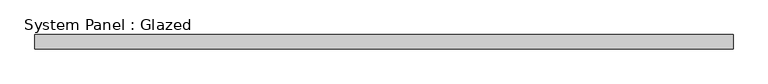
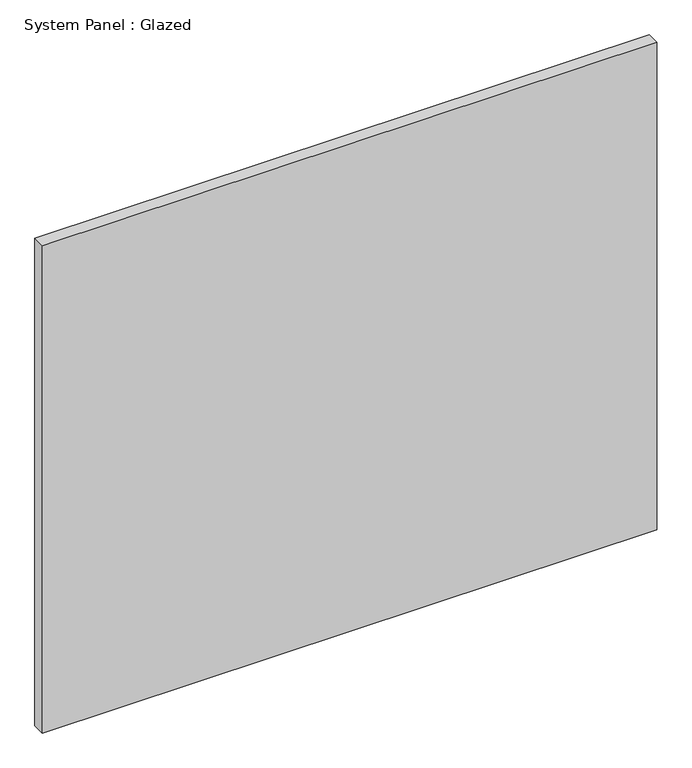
"""IFC4 building model written with IfcOpenShell, lengths in millimetres: plate geometry, System Panel : Glazed."""

import ifcopenshell
import ifcopenshell.guid

model = None  # the IFC model being written
_history = None  # IfcOwnerHistory: only IFC2X3 demands one
_inside = {}  # id of a spatial element -> (the spatial element, [elements in it])
_under = {}  # id of a project, library or spatial element -> (it, [spatial elements below it])
_declared = {}  # id of a project -> (the project, [libraries it declares])
_typed = {}  # id of a type object -> (the type object, [elements of that type])
_made_of = {}  # id of a material, layer set ... -> (it, [elements and type objects made of it])


def new_model(schema):
    """Start an empty IFC model of exactly this schema.

    Asked for "IFC4X3", IfcOpenShell would pick the latest addendum, in which some entities
    have other attributes; the version numbers below select the first issue.
    IFC2X3 requires an IfcOwnerHistory on every rooted entity: one is made here for all.
    """
    global model, _history
    if schema == "IFC4X3":
        model = ifcopenshell.file(schema_version=(4, 3, 0, 0))
    else:
        model = ifcopenshell.file(schema=schema)
    _inside.clear()
    _under.clear()
    _declared.clear()
    _typed.clear()
    _made_of.clear()
    _history = None
    if model.schema == "IFC2X3":
        org = make("IfcOrganization", Name="unknown")
        user = make(
            "IfcPersonAndOrganization",
            ThePerson=make("IfcPerson", FamilyName="unknown"),
            TheOrganization=org,
        )
        app = make(
            "IfcApplication",
            ApplicationDeveloper=org,
            Version="unknown",
            ApplicationFullName="unknown",
            ApplicationIdentifier="unknown",
        )
        _history = make(
            "IfcOwnerHistory",
            OwningUser=user,
            OwningApplication=app,
            ChangeAction="ADDED",
            CreationDate=0,
        )
    return model


def make(cls, **values):
    """One entity of the class cls with the attributes given. An attribute that is None is left unset."""
    return model.create_entity(
        cls, **{name: value for name, value in values.items() if value is not None}
    )


def rooted(cls, **values):
    """An entity with a GlobalId (a new one), such as an element, a storey or a relation."""
    return make(cls, GlobalId=ifcopenshell.guid.new(), OwnerHistory=_history, **values)


def si_unit(unit_type, name, prefix=None):
    """IfcSIUnit, for example si_unit("LENGTHUNIT", "METRE", prefix="MILLI")."""
    return make("IfcSIUnit", UnitType=unit_type, Prefix=prefix, Name=name)


def assignment(units):
    """IfcUnitAssignment: the units of a project."""
    return None if units is None else make("IfcUnitAssignment", Units=units)


def point(xyz):
    """IfcCartesianPoint."""
    return None if xyz is None else make("IfcCartesianPoint", Coordinates=xyz)


def direction(xyz):
    """IfcDirection."""
    return None if xyz is None else make("IfcDirection", DirectionRatios=xyz)


def frame(location, z_axis=None, x_axis=None):
    """IfcAxis2Placement3D, a coordinate frame: its origin and axes. An axis left out is left unset."""
    return make(
        "IfcAxis2Placement3D",
        Location=point(location),
        Axis=direction(z_axis),
        RefDirection=direction(x_axis),
    )


def origin():
    """The frame at (0, 0, 0) with its axes left unset."""
    return frame((0.0, 0.0, 0.0))


def origin_with_axes():
    """The frame at (0, 0, 0) with the z axis (0, 0, 1) and the x axis (1, 0, 0) written out."""
    return frame((0.0, 0.0, 0.0), z_axis=(0.0, 0.0, 1.0), x_axis=(1.0, 0.0, 0.0))


def place(relative_to, where):
    """IfcLocalPlacement: puts the frame where relative to a parent placement (None: the world)."""
    return make(
        "IfcLocalPlacement", PlacementRelTo=relative_to, RelativePlacement=where
    )


def context(
    kind, dimensions, precision=None, world=None, true_north=None, identifier=None
):
    """IfcGeometricRepresentationContext, for example the 3D "Model" context."""
    return make(
        "IfcGeometricRepresentationContext",
        ContextIdentifier=identifier,
        ContextType=kind,
        CoordinateSpaceDimension=dimensions,
        Precision=precision,
        WorldCoordinateSystem=world,
        TrueNorth=true_north,
    )


def project(units=None, contexts=None):
    """IfcProject with its units and contexts."""
    return rooted(
        "IfcProject",
        Name="project",
        RepresentationContexts=contexts,
        UnitsInContext=assignment(units),
    )


def spatial(cls, under=None, at=None, **own):
    """A site, building, storey or space (cls), placed at a placement, below another one or the project."""
    s = rooted(cls, ObjectPlacement=at, **own)
    if under is not None:
        _under.setdefault(under.id(), (under, []))[1].append(s)
    return s


def polyline(points):
    """IfcPolyline through the points."""
    return make("IfcPolyline", Points=[point(p) for p in points])


def outline(outer, holes=None, kind="AREA"):
    """IfcArbitraryClosedProfileDef: a profile drawn as a closed curve; with holes, ...WithVoids."""
    if holes is None:
        return make("IfcArbitraryClosedProfileDef", ProfileType=kind, OuterCurve=outer)
    return make(
        "IfcArbitraryProfileDefWithVoids",
        ProfileType=kind,
        OuterCurve=outer,
        InnerCurves=holes,
    )


def extrude(swept, where, along, depth):
    """IfcExtrudedAreaSolid: the profile swept, set in the frame where, extruded along a direction by depth."""
    return make(
        "IfcExtrudedAreaSolid",
        SweptArea=swept,
        Position=where,
        ExtrudedDirection=direction(along),
        Depth=depth,
    )


def shape(context_of_items, identifier, shape_type, items):
    """IfcShapeRepresentation: the items that make up one representation, for example the "Body"."""
    return make(
        "IfcShapeRepresentation",
        ContextOfItems=context_of_items,
        RepresentationIdentifier=identifier,
        RepresentationType=shape_type,
        Items=items,
    )


def source(mapping_origin, context_of_items, identifier, shape_type, items):
    """IfcRepresentationMap: a shape defined once, which mapped items show again and again."""
    return make(
        "IfcRepresentationMap",
        MappingOrigin=mapping_origin,
        MappedRepresentation=shape(context_of_items, identifier, shape_type, items),
    )


def transform(
    local_origin,
    x_axis=None,
    y_axis=None,
    z_axis=None,
    scale=None,
    scale2=None,
    scale3=None,
    uniform=True,
):
    """IfcCartesianTransformationOperator3D, or its non-uniform kind. x_axis, y_axis, z_axis: its Axis1, 2, 3."""
    if uniform:
        return make(
            "IfcCartesianTransformationOperator3D",
            Axis1=direction(x_axis),
            Axis2=direction(y_axis),
            LocalOrigin=point(local_origin),
            Scale=scale,
            Axis3=direction(z_axis),
        )
    return make(
        "IfcCartesianTransformationOperator3DnonUniform",
        Axis1=direction(x_axis),
        Axis2=direction(y_axis),
        LocalOrigin=point(local_origin),
        Scale=scale,
        Axis3=direction(z_axis),
        Scale2=scale2,
        Scale3=scale3,
    )


def mapped(mapping_source, mapping_target):
    """IfcMappedItem: shows the shape of a source again, moved by a transform."""
    return make(
        "IfcMappedItem", MappingSource=mapping_source, MappingTarget=mapping_target
    )


def made_of(thing, what):
    """Note that an element or type object is made of a material, layer set ...; save() writes the relation."""
    if what is not None:
        _made_of.setdefault(what.id(), (what, []))[1].append(thing)
    return thing


def element(
    cls,
    number,
    at=None,
    inside=None,
    cuts=None,
    type_object=None,
    material=None,
    context=None,
    identifier="Body",
    shape_type=None,
    held_by="IfcProductDefinitionShape",
    body=None,
    shapes=None,
    **own,
):
    """One element of the class cls, such as IfcWall. Its Tag is "e" and its number.

    at: its placement. inside: the storey or other place that contains it. cuts: it is an
    opening in that element (IfcRelVoidsElement). A single representation is given by context,
    identifier, shape_type and body (its items); several are given by shapes. held_by: the class
    of the entity that holds the representations. save() writes the other relations.
    """
    e = rooted(cls, Tag="e%d" % number, ObjectPlacement=at, **own)
    if body is not None:
        shapes = [shape(context, identifier, shape_type, body)]
    if shapes is not None:
        e.Representation = make(held_by, Representations=shapes)
    if inside is not None:
        _inside.setdefault(inside.id(), (inside, []))[1].append(e)
    if cuts is not None:
        rooted(
            "IfcRelVoidsElement", RelatingBuildingElement=cuts, RelatedOpeningElement=e
        )
    if type_object is not None:
        _typed.setdefault(type_object.id(), (type_object, []))[1].append(e)
    return made_of(e, material)


def aggregate(whole, parts):
    """IfcRelAggregates: a whole, such as a stair, and the parts it consists of."""
    return rooted("IfcRelAggregates", RelatingObject=whole, RelatedObjects=parts)


def save(model, path):
    """Write the relations noted so far, then the file.

    IfcRelAggregates (storeys below a building ...), IfcRelContainedInSpatialStructure (elements
    in a storey), IfcRelDefinesByType, IfcRelAssociatesMaterial and IfcRelDeclares: one each for
    every whole, place, type object, material and project.
    """
    for whole, parts in _under.values():
        aggregate(whole, parts)
    for where, things in _inside.values():
        rooted(
            "IfcRelContainedInSpatialStructure",
            RelatedElements=things,
            RelatingStructure=where,
        )
    for kind, things in _typed.values():
        rooted("IfcRelDefinesByType", RelatedObjects=things, RelatingType=kind)
    for what, things in _made_of.values():
        rooted("IfcRelAssociatesMaterial", RelatedObjects=things, RelatingMaterial=what)
    for by, libraries in _declared.values():
        rooted("IfcRelDeclares", RelatingContext=by, RelatedDefinitions=libraries)
    model.write(path)


def system_panel_glazed_28acfef6(model_context):
    return source(origin(), model_context, "Body", "SweptSolid", [
        extrude(outline(polyline([(619.2304533, 19.05), (-619.2304533, 19.05), (-619.2304533, 44.45), (619.2304533, 44.45), (619.2304533, 19.05)])), origin_with_axes(), (0.0, 0.0, 1.0), 1038.7193103),
    ])


if __name__ == "__main__":
    model = new_model("IFC4")
    model_context = context("Model", 3, world=origin())
    ifc_project = project(units=[si_unit("LENGTHUNIT", "METRE", prefix="MILLI")], contexts=[model_context])
    site = spatial("IfcSite", under=ifc_project)
    building = spatial("IfcBuilding", under=site)
    placement = place(None, origin())
    system_panel_glazed_shape = system_panel_glazed_28acfef6(model_context)
    element("IfcPlate", 1, ObjectType="System Panel : Glazed", at=placement, inside=building, context=model_context, shape_type="MappedRepresentation", body=[
        mapped(system_panel_glazed_shape, transform((0.0, 0.0, 0.0), x_axis=(1.0, 0.0, 0.0), y_axis=(0.0, 1.0, 0.0), z_axis=(0.0, 0.0, 1.0))),
    ])
    save(model, "model.ifc")
